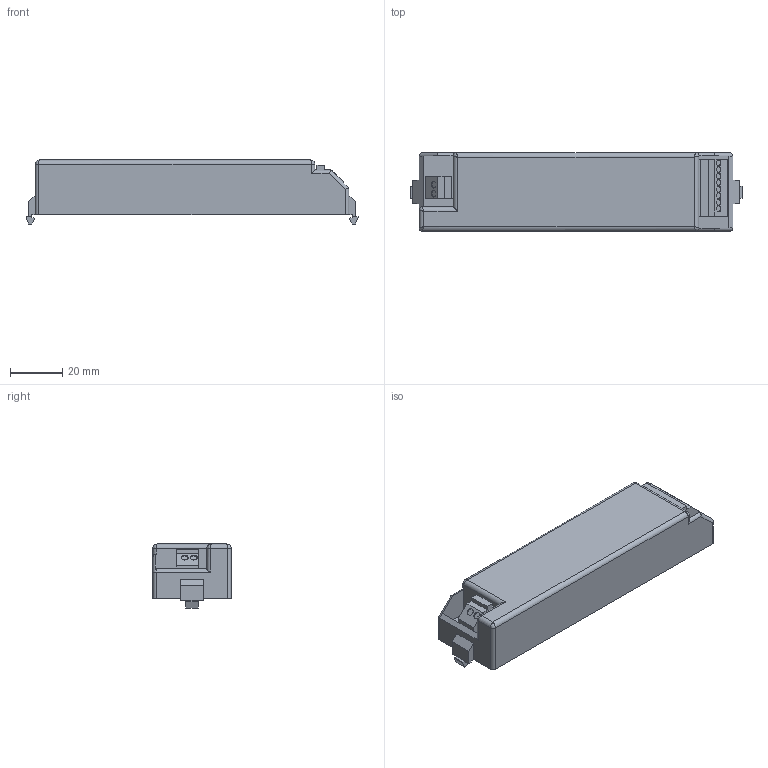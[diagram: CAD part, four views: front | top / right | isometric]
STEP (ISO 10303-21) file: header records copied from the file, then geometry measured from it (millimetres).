
FILE_DESCRIPTION((''),'2;1');
FILE_NAME('15007433Z','2012-12-19T',('juergen.hrach'),(''),'PRO/ENGINEER BY PARAMETRIC TECHNOLOGY CORPORATION, 2011310','PRO/ENGINEER BY PARAMETRIC TECHNOLOGY CORPORATION, 2011310','');
FILE_SCHEMA(('AUTOMOTIVE_DESIGN { 1 2 10303 214 0 1 1 1 }'));
Length unit declared in the file: millimetre
Products named in the file (1): 15007433Z
Bounding box: 127 x 30 x 24.5 mm (x, y, z)
Volume: 70032.9 mm3; surface area: 14815 mm2
Topology: 1 solids, 1 shells, 123 faces, 315 edges, 203 vertices
Faces by surface type: plane 78, cylinder 40, bspline 5
Entity records: 5046 total; most frequent: CARTESIAN_POINT 1020, ORIENTED_EDGE 630, DIRECTION 573, PRESENTATION_STYLE_ASSIGNMENT 316, STYLED_ITEM 316, CURVE_STYLE 315, EDGE_CURVE 315, VECTOR 239
